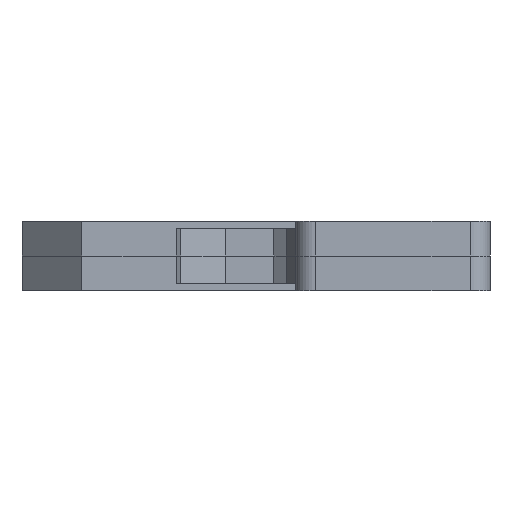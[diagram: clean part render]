
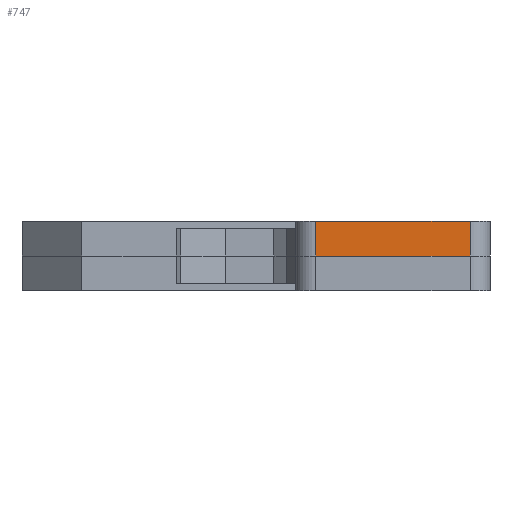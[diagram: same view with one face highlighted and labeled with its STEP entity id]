
A CAD part, left-side view. The second image highlights one B-rep face of the part: STEP entity #747.
In plain terms, the highlighted planar face has unit normal (-1, 0, 0).
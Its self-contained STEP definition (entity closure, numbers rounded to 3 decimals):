
#747=ADVANCED_FACE('',(#2395),#2397,.F.);
#2395=FACE_BOUND('',#2396,.T.);
#2396=EDGE_LOOP('',(#3676,#3677,#3678,#3679));
#2397=PLANE('',#2398);
#2398=AXIS2_PLACEMENT_3D('',#2399,#2400,#2401);
#2399=CARTESIAN_POINT('',(9210.362,-62586.052,-3.5));
#2400=DIRECTION('',(1.,0.,0.));
#2401=DIRECTION('',(0.,0.,-1.));
#3676=ORIENTED_EDGE('',*,*,#4501,.F.);
#3677=ORIENTED_EDGE('',*,*,#4691,.T.);
#3678=ORIENTED_EDGE('',*,*,#4692,.T.);
#3679=ORIENTED_EDGE('',*,*,#4693,.F.);
#4501=EDGE_CURVE('',#5154,#5156,#5157,.T.);
#4691=EDGE_CURVE('',#5154,#5455,#5457,.T.);
#4692=EDGE_CURVE('',#5455,#5458,#5459,.T.);
#4693=EDGE_CURVE('',#5156,#5458,#5460,.T.);
#5154=VERTEX_POINT('',#6281);
#5156=VERTEX_POINT('',#6286);
#5157=LINE('',#6287,#6288);
#5455=VERTEX_POINT('',#6988);
#5457=LINE('',#6993,#6994);
#5458=VERTEX_POINT('',#6996);
#5459=LINE('',#6997,#6998);
#5460=LINE('',#7000,#7001);
#6281=CARTESIAN_POINT('',(9210.362,-62586.052,0.));
#6286=CARTESIAN_POINT('',(9210.362,-62570.552,0.));
#6287=CARTESIAN_POINT('',(9210.362,-62586.052,0.));
#6288=VECTOR('',#6289,1.);
#6289=DIRECTION('',(0.,1.,0.));
#6988=CARTESIAN_POINT('',(9210.362,-62586.052,3.5));
#6993=CARTESIAN_POINT('',(9210.362,-62586.052,0.));
#6994=VECTOR('',#6995,1.);
#6995=DIRECTION('',(0.,0.,1.));
#6996=CARTESIAN_POINT('',(9210.362,-62570.552,3.5));
#6997=CARTESIAN_POINT('',(9210.362,-62586.052,3.5));
#6998=VECTOR('',#6999,1.);
#6999=DIRECTION('',(0.,1.,0.));
#7000=CARTESIAN_POINT('',(9210.362,-62570.552,0.));
#7001=VECTOR('',#7002,1.);
#7002=DIRECTION('',(0.,0.,1.));
